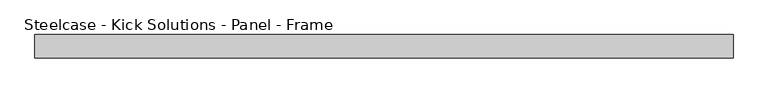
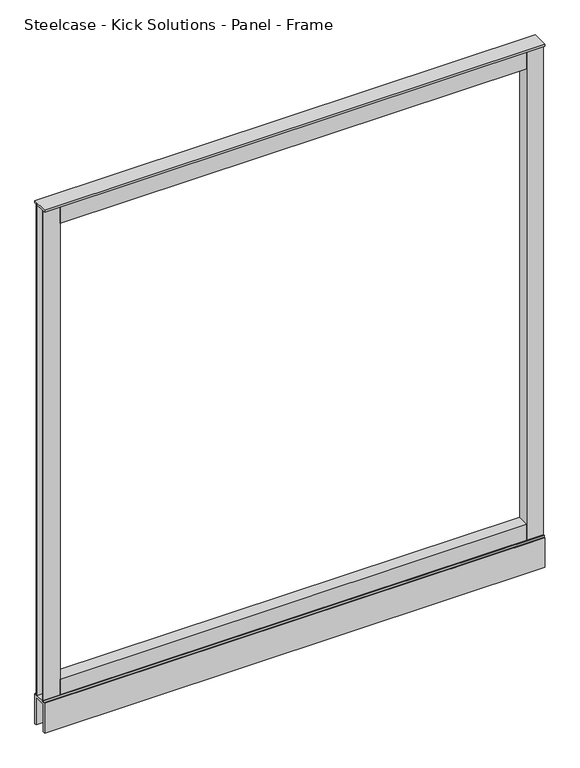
"""IFC4 building model written with IfcOpenShell, lengths in millimetres: furniture geometry, Steelcase - Kick Solutions - Panel - Frame : 66H x 60W."""

from ifc_helpers import new_model, si_unit, frame, origin, place, context, project, spatial, polyline, outline, extrude, source, transform, mapped, element, save


def steelcase_kick_solutions_panel_frame_d8f97114(model_context):
    return source(origin(), model_context, "Body", "SweptSolid", [
        extrude(outline(polyline([(50.8006646, 6.3506854), (50.8006646, -31.7493123), (0.0, -31.7493123), (0.0, -29.2093123), (48.2606646, -29.2093123), (48.2606646, 3.8106854), (0.0, 3.8106854), (0.0, 6.3506854), (50.8006646, 6.3506854)])), frame((0.0, 0.0, 95.25), z_axis=(0.0, 0.0, 1.0), x_axis=(1.0, 0.0, 0.0)), (0.0, 0.0, 1.0), 1581.15),
        extrude(outline(polyline([(1473.2006661, 6.3506854), (1524.0, 6.3506854), (1524.0, 3.8106854), (1475.7393354, 3.8106854), (1475.7393354, -29.2093123), (1524.0, -29.2093123), (1524.0, -31.7493123), (1473.2006661, -31.7493123), (1473.2006661, 6.3506854)])), frame((0.0, 0.0, 95.25), z_axis=(0.0, 0.0, 1.0), x_axis=(1.0, 0.0, 0.0)), (0.0, 0.0, 1.0), 1581.15),
        extrude(outline(polyline([(6.3506854, 101.600003), (9.5256855, 101.600003), (9.5256855, 95.25), (8.409661, 95.25), (8.409661, 100.2902081), (6.3506854, 100.2902081), (6.3506854, 101.600003)])), frame((0.0, 0.0, 0.0), z_axis=(1.0, 0.0, 0.0), x_axis=(0.0, 1.0, 0.0)), (0.0, 0.0, 1.0), 1524.0),
        extrude(outline(polyline([(-34.9243138, 101.600003), (-31.7493123, 101.600003), (-31.7493123, 100.2902081), (-33.8479845, 100.2902081), (-33.8479845, 95.25), (-34.9243138, 95.25), (-34.9243138, 101.600003)])), frame((0.0, 0.0, 0.0), z_axis=(1.0, 0.0, 0.0), x_axis=(0.0, 1.0, 0.0)), (0.0, 0.0, 1.0), 1524.0),
        extrude(outline(polyline([(1473.2006661, -31.7493123), (50.8006646, -31.7493123), (50.8006646, 6.3506854), (1473.2006661, 6.3506854), (1473.2006661, -31.7493123)])), frame((0.0, 0.0, 1619.2500242), z_axis=(0.0, 0.0, 1.0), x_axis=(1.0, 0.0, 0.0)), (0.0, 0.0, 1.0), 57.1499758),
        extrude(outline(polyline([(1473.2006661, -31.7493123), (50.8006646, -31.7493123), (50.8006646, 6.3506854), (1473.2006661, 6.3506854), (1473.2006661, -31.7493123)])), frame((0.0, 0.0, 95.25), z_axis=(0.0, 0.0, 1.0), x_axis=(1.0, 0.0, 0.0)), (0.0, 0.0, 1.0), 57.15),
        extrude(outline(polyline([(1524.0, 12.7000004), (1524.0, -38.1000011), (0.0, -38.1000011), (0.0, 12.7000004), (1524.0, 12.7000004)])), frame((0.0, 0.0, 1676.4), z_axis=(0.0, 0.0, 1.0), x_axis=(1.0, 0.0, 0.0)), (0.0, 0.0, 1.0), 6.35),
        extrude(outline(polyline([(-38.1000011, 95.25), (12.7000004, 95.25), (12.7000004, 0.0), (6.3506854, 0.0), (6.3506854, 88.9), (-31.7493123, 88.9), (-31.7493123, 0.0), (-38.1000011, 0.0), (-38.1000011, 95.25)])), frame((0.0, 0.0, 0.0), z_axis=(1.0, 0.0, 0.0), x_axis=(0.0, 1.0, 0.0)), (0.0, 0.0, 1.0), 1524.0),
    ])


if __name__ == "__main__":
    model = new_model("IFC4")
    model_context = context("Model", 3, world=origin())
    ifc_project = project(units=[si_unit("LENGTHUNIT", "METRE", prefix="MILLI")], contexts=[model_context])
    site = spatial("IfcSite", under=ifc_project)
    building = spatial("IfcBuilding", under=site)
    placement = place(None, origin())
    steelcase_kick_solutions_panel_frame_shape = steelcase_kick_solutions_panel_frame_d8f97114(model_context)
    element("IfcFurniture", 1, ObjectType="Steelcase - Kick Solutions - Panel - Frame : 66H x 60W", at=placement, inside=building, context=model_context, shape_type="MappedRepresentation", body=[
        mapped(steelcase_kick_solutions_panel_frame_shape, transform((0.0, 0.0, 0.0), x_axis=(1.0, 0.0, 0.0), y_axis=(0.0, 1.0, 0.0), z_axis=(0.0, 0.0, 1.0))),
    ])
    save(model, "model.ifc")
